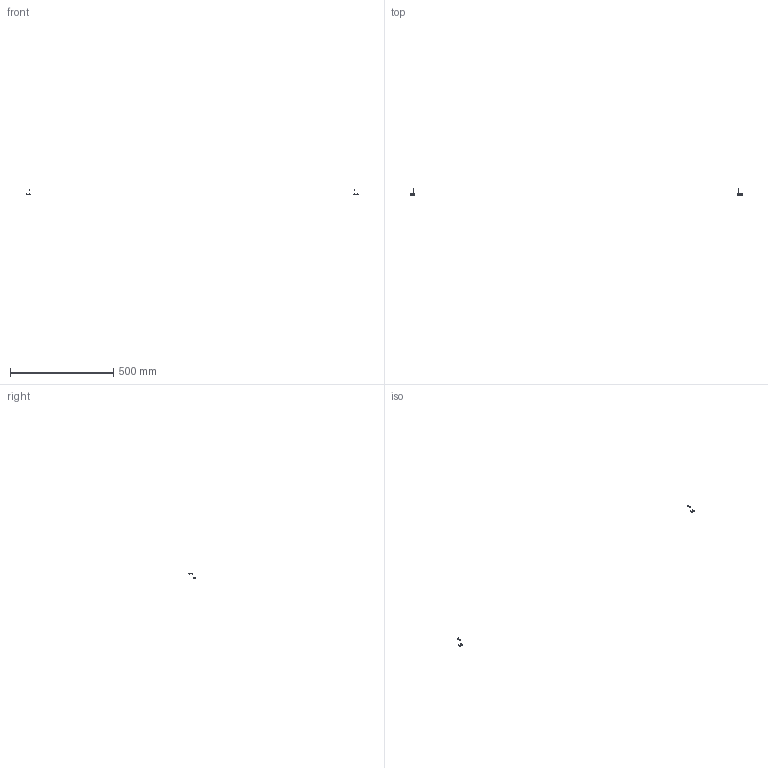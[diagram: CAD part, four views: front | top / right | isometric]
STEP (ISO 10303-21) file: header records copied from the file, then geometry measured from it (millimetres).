
FILE_DESCRIPTION(/* description */ (''),/* implementation_level */ '2;1');
FILE_NAME(/* name */ 'FR2CB4~1',/* time_stamp */ '2014-02-14T19:35:24+01:00',/* author */ (''),/* organization */ (''),/* preprocessor_version */ 'ST-DEVELOPER v14',/* originating_system */ '',/* authorisation */ '');
FILE_SCHEMA (('AUTOMOTIVE_DESIGN'));
Length unit declared in the file: millimetre
Products named in the file (2): Document; washer Schnorr-like, lock, M3
Assembly tree (10 placements, depth 2):
  Document
    washer Schnorr-like, lock, M3  x10
Bounding box: 1607.22 x 29.86 x 28.6 mm (x, y, z)
Surface area: 880.3 mm2 (no closed solid volume)
Topology: 0 solids, 160 shells, 160 faces, 640 edges, 640 vertices
Faces by surface type: bspline 160
Entity records: 7887 total; most frequent: CARTESIAN_POINT 3885, B_SPLINE_CURVE_WITH_KNOTS 528, ORIENTED_EDGE 352, PCURVE 352, DEFINITIONAL_REPRESENTATION 352, SURFACE_CURVE 352, EDGE_CURVE 352, VERTEX_POINT 352
